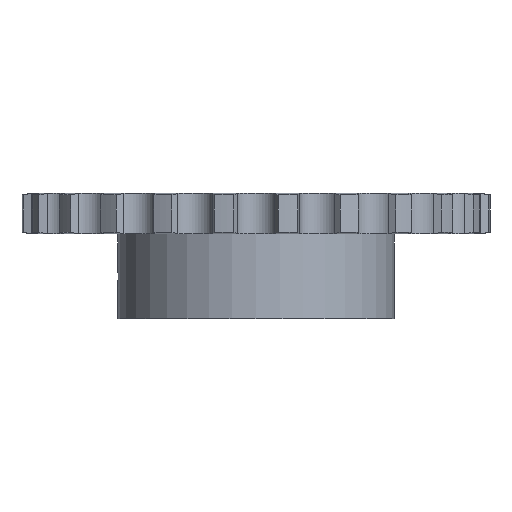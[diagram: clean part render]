
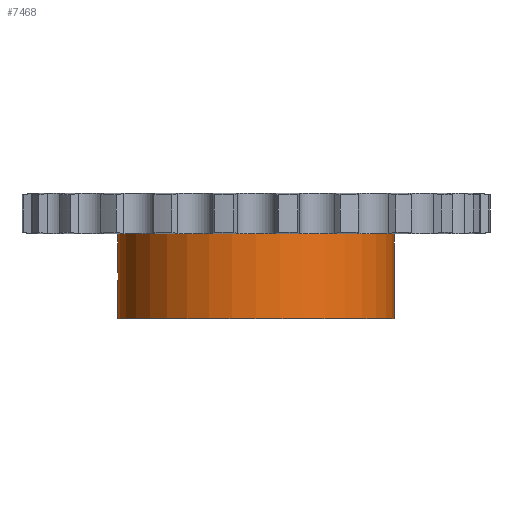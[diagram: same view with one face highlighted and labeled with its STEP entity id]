
A CAD part, front view. The second image highlights one B-rep face of the part: STEP entity #7468.
In plain terms, the highlighted cylindrical face has radius 55 mm (diameter 110 mm), a partial arc.
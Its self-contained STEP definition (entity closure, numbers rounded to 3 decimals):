
#1275=CARTESIAN_POINT('',(0.,0.,-8.1));
#1276=DIRECTION('',(0.,0.,1.));
#1277=DIRECTION('',(-1.,0.,0.));
#1278=AXIS2_PLACEMENT_3D('',#1275,#1276,#1277);
#3738=CARTESIAN_POINT('',(-55.,0.,
-23.));
#3761=DIRECTION('',(0.,0.,1.));
#3762=VECTOR('',#3761,33.8);
#3763=CARTESIAN_POINT('',(55.,0.,-41.9));
#3764=LINE('',#3763,#3762);
#3884=CARTESIAN_POINT('',(-55.,0.,
-23.));
#3885=CARTESIAN_POINT('',(-55.,-0.096,
-23.));
#3886=CARTESIAN_POINT('',(-55.,-0.287,
-23.014));
#3887=CARTESIAN_POINT('',(-54.997,-0.571,
-23.075));
#3888=CARTESIAN_POINT('',(-54.994,-0.842,
-23.176));
#3889=CARTESIAN_POINT('',(-54.989,-1.096,
-23.314));
#3890=CARTESIAN_POINT('',(-54.984,-1.326,
-23.487));
#3891=CARTESIAN_POINT('',(-54.979,-1.53,
-23.689));
#3892=CARTESIAN_POINT('',(-54.974,-1.702,
-23.919));
#3893=CARTESIAN_POINT('',(-54.969,-1.84,
-24.173));
#3894=CARTESIAN_POINT('',(-54.966,-1.94,
-24.443));
#3895=CARTESIAN_POINT('',(-54.964,-2.,
-24.722));
#3896=CARTESIAN_POINT('',(-54.963,-2.013,
-24.907));
#3897=CARTESIAN_POINT('',(-54.963,-2.013,
-25.));
#3902=DIRECTION('',(0.,0.,1.));
#3903=VECTOR('',#3902,14.9);
#3904=CARTESIAN_POINT('',(-55.,0.,
-23.));
#3905=LINE('',#3904,#3903);
#3909=DIRECTION('',(0.,0.,1.));
#3910=VECTOR('',#3909,14.9);
#3911=CARTESIAN_POINT('',(-55.,0.,-41.9));
#3912=LINE('',#3911,#3910);
#3916=CARTESIAN_POINT('',(-54.963,-2.013,
-25.));
#3917=CARTESIAN_POINT('',(-54.963,-2.013,
-25.093));
#3918=CARTESIAN_POINT('',(-54.964,-2.,
-25.277));
#3919=CARTESIAN_POINT('',(-54.966,-1.941,
-25.557));
#3920=CARTESIAN_POINT('',(-54.969,-1.841,
-25.826));
#3921=CARTESIAN_POINT('',(-54.974,-1.702,
-26.08));
#3922=CARTESIAN_POINT('',(-54.979,-1.53,
-26.31));
#3923=CARTESIAN_POINT('',(-54.984,-1.327,
-26.513));
#3924=CARTESIAN_POINT('',(-54.989,-1.096,
-26.686));
#3925=CARTESIAN_POINT('',(-54.994,-0.842,
-26.824));
#3926=CARTESIAN_POINT('',(-54.997,-0.571,
-26.925));
#3927=CARTESIAN_POINT('',(-55.,-0.287,
-26.986));
#3928=CARTESIAN_POINT('',(-55.,-0.096,
-27.));
#3929=CARTESIAN_POINT('',(-55.,0.,
-27.));
#3942=CARTESIAN_POINT('',(0.,0.,-41.9));
#3943=DIRECTION('',(0.,0.,-1.));
#3944=DIRECTION('',(1.,0.,0.));
#3945=AXIS2_PLACEMENT_3D('',#3942,#3943,#3944);
#4355=CARTESIAN_POINT('',(-55.,0.,-41.9));
#4356=CARTESIAN_POINT('',(55.,0.,-41.9));
#4357=VERTEX_POINT('',#4355);
#4358=VERTEX_POINT('',#4356);
#4359=CARTESIAN_POINT('',(55.,0.,-8.1));
#4360=VERTEX_POINT('',#4359);
#4361=CARTESIAN_POINT('',(-55.,0.,-8.1));
#4362=VERTEX_POINT('',#4361);
#4614=VERTEX_POINT('',#3738);
#4617=VERTEX_POINT('',#3897);
#4619=VERTEX_POINT('',#3929);
#7452=CARTESIAN_POINT('',(0.,0.,8.1));
#7453=DIRECTION('',(0.,0.,1.));
#7454=DIRECTION('',(1.,0.,0.));
#7455=AXIS2_PLACEMENT_3D('',#7452,#7453,#7454);
#7456=CYLINDRICAL_SURFACE('',#7455,55.);
#7457=ORIENTED_EDGE('',*,*,#7442,.F.);
#7458=ORIENTED_EDGE('',*,*,#7049,.T.);
#7459=ORIENTED_EDGE('',*,*,#5950,.T.);
#7460=ORIENTED_EDGE('',*,*,#7046,.F.);
#7462=ORIENTED_EDGE('',*,*,#7461,.T.);
#7463=ORIENTED_EDGE('',*,*,#7042,.T.);
#7465=ORIENTED_EDGE('',*,*,#7464,.F.);
#7466=EDGE_LOOP('',(#7457,#7458,#7459,#7460,#7462,#7463,#7465));
#7467=FACE_OUTER_BOUND('',#7466,.F.);
#7468=ADVANCED_FACE('',(#7467),#7456,.T.);
#1279=CIRCLE('',#1278,55.);
#3898=B_SPLINE_CURVE_WITH_KNOTS('',3,(#3884,#3885,#3886,#3887,#3888,#3889,#3890,
#3891,#3892,#3893,#3894,#3895,#3896,#3897),.UNSPECIFIED.,.F.,.F.,(4,1,1,1,1,1,1,
1,1,1,1,4),(0.,0.091,0.182,0.273,
0.364,0.455,0.545,0.636,
0.727,0.818,0.909,1.),.UNSPECIFIED.);
#3930=B_SPLINE_CURVE_WITH_KNOTS('',3,(#3916,#3917,#3918,#3919,#3920,#3921,#3922,
#3923,#3924,#3925,#3926,#3927,#3928,#3929),.UNSPECIFIED.,.F.,.F.,(4,1,1,1,1,1,1,
1,1,1,1,4),(0.,0.091,0.182,0.273,
0.364,0.455,0.545,0.636,
0.727,0.818,0.909,1.),.UNSPECIFIED.);
#3946=CIRCLE('',#3945,55.);
#5950=EDGE_CURVE('',#4362,#4360,#1279,.T.);
#7042=EDGE_CURVE('',#4357,#4619,#3912,.T.);
#7046=EDGE_CURVE('',#4358,#4360,#3764,.T.);
#7049=EDGE_CURVE('',#4614,#4362,#3905,.T.);
#7442=EDGE_CURVE('',#4614,#4617,#3898,.T.);
#7461=EDGE_CURVE('',#4358,#4357,#3946,.T.);
#7464=EDGE_CURVE('',#4617,#4619,#3930,.T.);
